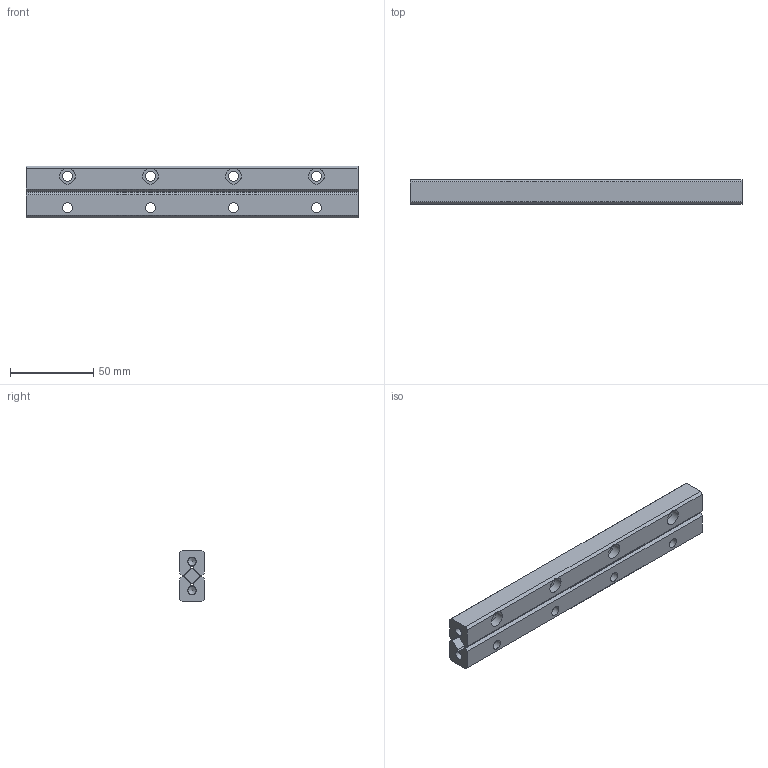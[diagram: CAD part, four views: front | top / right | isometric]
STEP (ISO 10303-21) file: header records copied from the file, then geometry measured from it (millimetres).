
FILE_DESCRIPTION((''),'2;1');
FILE_NAME('D:\製品 (図面)\カタログ用3D\リニアガイド関連\STEP形式\ACS6\ACS6200.stp','2010-07-29T15:42:54',('Tsuchiya'),(''),'Autodesk Inventor 10','Autodesk Inventor 10','');
FILE_SCHEMA(('AUTOMOTIVE_DESIGN { 1 0 10303 214 1 1 1 1 }'));
Length unit declared in the file: millimetre
Products named in the file (4): ACS6200; ACS62001; ACS62002; ACS62003
Assembly tree (3 placements, depth 2):
  ACS6200
    ACS62001
    ACS62002
    ACS62003
Bounding box: 200 x 15 x 31 mm (x, y, z)
Volume: 80345.7 mm3; surface area: 33161.9 mm2
Topology: 3 solids, 3 shells, 86 faces, 226 edges, 150 vertices
Faces by surface type: plane 52, bspline 28, cylinder 4, cone 2
Full cylindrical faces by diameter (mm): 5 x2
Entity records: 2795 total; most frequent: CARTESIAN_POINT 781, ORIENTED_EDGE 376, DIRECTION 370, EDGE_CURVE 188, VERTEX_POINT 136, VECTOR 136, LINE 136, EDGE_LOOP 130
